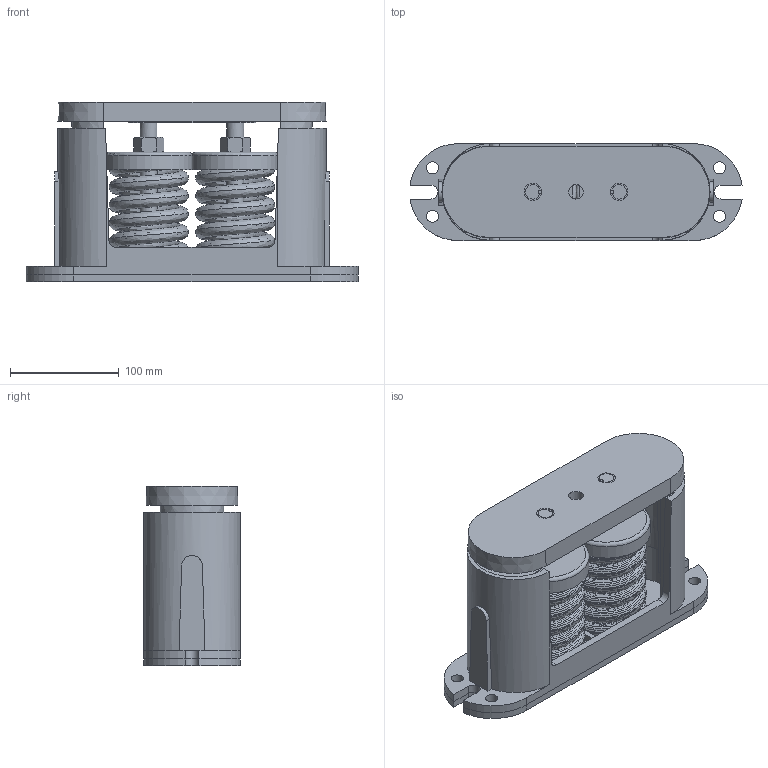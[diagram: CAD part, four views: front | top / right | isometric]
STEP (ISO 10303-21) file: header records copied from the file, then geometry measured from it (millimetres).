
FILE_DESCRIPTION(/* description */ (''),/* implementation_level */ '2;1');
FILE_NAME(/* name */ 'C:\001_Work\Designs\C MOUNTS\CI-D, D2\CI-D-5870.stp',/* time_stamp */ '2015-12-10T15:07:42-05:00',/* author */ ('rramoutar'),/* organization */ ('Mason Industries Inc.'),/* preprocessor_version */ 'ST-DEVELOPER v15.6',/* originating_system */ 'Autodesk Inventor 2015',/* authorisation */ '');
FILE_SCHEMA (('CONFIG_CONTROL_DESIGN'));
Length unit declared in the file: inch
Products named in the file (1): CI-D-5870
Bounding box: 304.8 x 88.9 x 165.1 mm (x, y, z)
Volume: 1218746.8 mm3; surface area: 424773.4 mm2
Topology: 1 solids, 3 shells, 287 faces, 757 edges, 487 vertices
Faces by surface type: plane 134, cylinder 65, bspline 48, cone 32, torus 8
Full cylindrical faces by diameter (mm): 11.112 x8, 13.386 x1, 15.875 x4, 16.669 x2, 25.4 x2, 73.819 x2
Entity records: 29058 total; most frequent: CARTESIAN_POINT 22124, ORIENTED_EDGE 1438, DIRECTION 1228, EDGE_CURVE 719, VERTEX_POINT 478, AXIS2_PLACEMENT_3D 459, EDGE_LOOP 349, LINE 310
